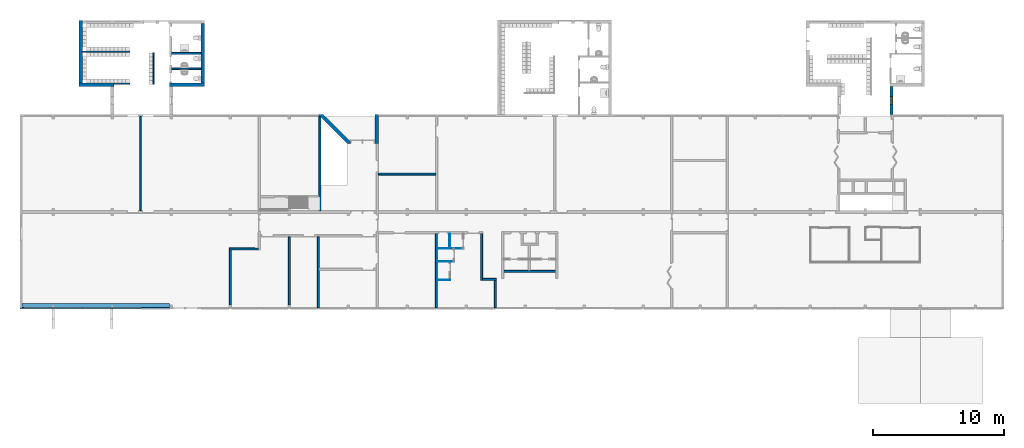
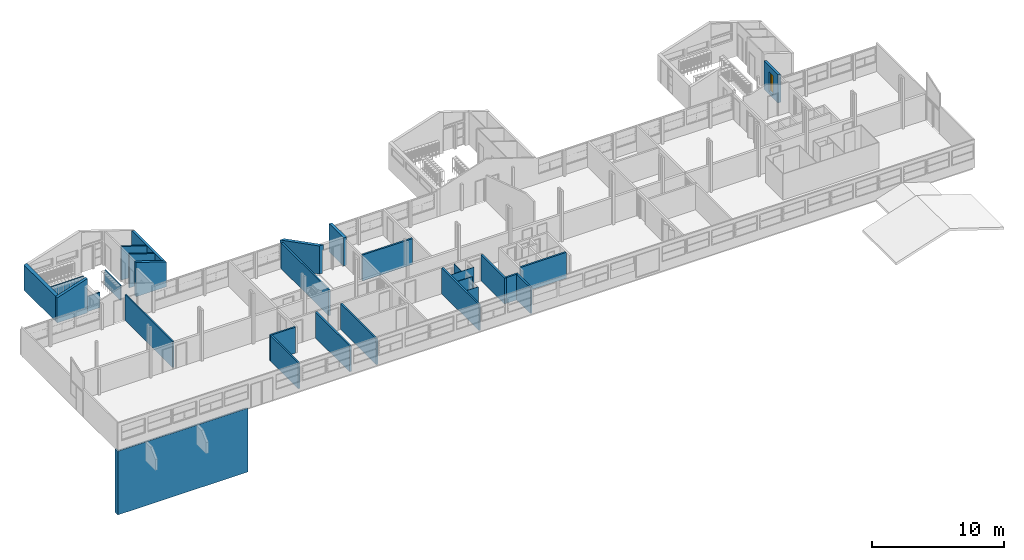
# One storey, part 6 of 48: 29 walls, 1 window, 1 opening.
"""IFC2X3 building model written with IfcOpenShell, lengths in millimetres."""

from ifc_helpers import new_model, entity, si_unit, converted_unit, derived_unit, money_unit, direction, frame, origin_with_axes, place, context, subcontext, project, spatial, open_shell, faceted_brep, surface_model, source, transform, mapped, material, type_object, element, fill, save


model = new_model("IFC2X3")

# Units and contexts
model_context = context("Model", 3, precision=0.01, world=origin_with_axes(), true_north=direction((0.0, 1.0)))
body_context = subcontext(model_context, "Body", "Model", "MODEL_VIEW")
ifc_project = project(units=[si_unit("LENGTHUNIT", "METRE", prefix="MILLI"), si_unit("AREAUNIT", "SQUARE_METRE"), si_unit("VOLUMEUNIT", "CUBIC_METRE"), converted_unit("PLANEANGLEUNIT", "DEGREE", entity("IfcPlaneAngleMeasure", 0.0174532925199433), si_unit("PLANEANGLEUNIT", "RADIAN"), dimensions=[0, 0, 0, 0, 0, 0, 0]), money_unit("USD"), converted_unit("TIMEUNIT", "Year", entity("IfcTimeMeasure", 31557600.0), si_unit("TIMEUNIT", "SECOND"), dimensions=[0, 0, 1, 0, 0, 0, 0]), si_unit("MASSUNIT", "GRAM", prefix="KILO"), si_unit("THERMODYNAMICTEMPERATUREUNIT", "DEGREE_CELSIUS"), si_unit("LUMINOUSINTENSITYUNIT", "LUMEN"), si_unit("ENERGYUNIT", "JOULE", prefix="MEGA"), derived_unit("THERMALCONDUCTANCEUNIT", [(si_unit("POWERUNIT", "WATT"), 1), (si_unit("LENGTHUNIT", "METRE"), -1), (si_unit("THERMODYNAMICTEMPERATUREUNIT", "KELVIN"), -1)]), derived_unit("SPECIFICHEATCAPACITYUNIT", [(si_unit("ENERGYUNIT", "JOULE"), 1), (si_unit("MASSUNIT", "GRAM", prefix="KILO"), -1), (si_unit("THERMODYNAMICTEMPERATUREUNIT", "KELVIN"), -1)]), derived_unit("MASSDENSITYUNIT", [(si_unit("MASSUNIT", "GRAM", prefix="KILO"), 1), (si_unit("VOLUMEUNIT", "CUBIC_METRE"), -1)])], contexts=[model_context])

# Site, building, storey
site_placement = place(None, origin_with_axes())
site = spatial("IfcSite", under=ifc_project, at=site_placement, Name="Site", CompositionType="ELEMENT")
building_placement = place(site_placement, origin_with_axes())
building = spatial("IfcBuilding", under=site, at=building_placement, Name="Building", CompositionType="ELEMENT")
storey_placement = place(building_placement, frame((0.0, 0.0, 3300.0), z_axis=(0.0, 0.0, 1.0), x_axis=(1.0, 0.0, 0.0)))
storey = spatial("IfcBuildingStorey", under=building, at=storey_placement, Name="1 ETG", CompositionType="ELEMENT", Elevation=3300.0)

# Walls
ifc_material_1 = material(Name="GENERIC - STRUCTURAL")
wall_type_1 = type_object("IfcWallType", Name="GENERIC - STRUCTURAL 400", PredefinedType="NOTDEFINED")
wall_1_placement = place(storey_placement, frame((-2520.260572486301, 7499.570929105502, -5900.0), z_axis=(0.0, 0.0, 1.0), x_axis=(1.0, 0.0, 0.0)))
element("IfcWall", 1, at=wall_1_placement, inside=storey, type_object=wall_type_1, material=ifc_material_1, Name="SW - 001", context=body_context, shape_type="Brep", body=[
    faceted_brep([(0.0, 0.0, 5900.0), (119.9999999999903, 0.0, 5900.0), (119.9999999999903, 0.0, 5700.0), (11390.2605724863, 0.0, 5700.0), (11390.2605724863, 0.0, 0.0), (0.0, 0.0, 0.0), (11390.2605724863, -299.6959527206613, 5900.0), (119.9999999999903, -299.6959527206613, 5900.0), (0.0, -399.9999999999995, 5900.0), (11390.2605724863, -399.9999999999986, 5900.0), (119.9999999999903, -299.6959527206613, 5700.0), (11390.2605724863, -299.6959527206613, 5700.0), (11390.2605724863, -399.9999999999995, 0.0), (0.0, -400.0000000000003, 0.0)], [[[0, 1, 2, 3, 4, 5]], [[6, 7, 1, 0, 8, 9]], [[10, 2, 1, 7]], [[10, 11, 3, 2]], [[3, 11, 6, 9, 12, 4]], [[13, 5, 4, 12]], [[8, 0, 5, 13]], [[10, 7, 6, 11]], [[8, 13, 12, 9]]]),
])
wall_type_2 = type_object("IfcWallType", Name="GENERIC - STRUCTURAL 260", PredefinedType="NOTDEFINED")
wall_2_placement = place(storey_placement, frame((24540.26965483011, 21799.95531338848, 0.0), z_axis=(0.0, 0.0, 1.0), x_axis=(-1.669870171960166e-06, -0.9999999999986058, 0.0)))
element("IfcWall", 2, at=wall_2_placement, inside=storey, type_object=wall_type_2, material=ifc_material_1, Name="SW - 001", context=body_context, shape_type="Brep", body=[
    faceted_brep([(0.0, 260.0000000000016, 865.018749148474), (0.0, 260.0000000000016, 2265.018749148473), (-119.9999999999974, 260.0000000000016, 2265.018749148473), (-119.9999999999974, 260.0000000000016, 2600.0), (2061.320278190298, 259.999999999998, 2600.0), (2061.320278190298, 259.999999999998, 0.0), (-119.9999999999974, 260.0000000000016, 0.0), (-119.9999999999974, 260.0000000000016, 865.018749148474), (-0.1244560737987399, 259.7303451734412, 865.018749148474), (-0.1244560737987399, 259.7303451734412, 2265.018749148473), (-119.9999999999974, 259.7303451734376, 2265.018749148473), (-119.9999999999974, 259.7303451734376, 865.018749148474), (-119.9999999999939, 0.0, 0.0), (-119.9999999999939, 0.0, 2600.0), (2061.320712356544, 0.0, 2600.0), (2061.320712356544, 0.0, 0.0)], [[[0, 1, 2, 3, 4, 5, 6, 7]], [[1, 0, 8, 9]], [[10, 2, 1, 9]], [[11, 7, 6, 12, 13, 3, 2, 10]], [[13, 14, 4, 3]], [[14, 15, 5, 4]], [[6, 5, 15, 12]], [[0, 7, 11, 8]], [[11, 10, 9, 8]], [[12, 15, 14, 13]]]),
])
wall_3_placement = place(storey_placement, frame((20724.52177348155, 21799.96168519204, 0.0), z_axis=(0.0, 0.0, 1.0), x_axis=(0.7071067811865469, -0.7071067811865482, 0.0)))
element("IfcWall", 3, at=wall_3_placement, inside=storey, type_object=wall_type_2, material=ifc_material_1, Name="SW - 001", context=body_context, shape_type="Brep", body=[
    faceted_brep([(2849.001192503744, -66.1555263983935, 0.0), (2849.001192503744, -66.1555263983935, 2100.0), (2915.156718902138, 0.0, 2100.0), (2915.156718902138, 0.0, 2600.0), (2655.156718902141, -259.999999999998, 2600.0), (2655.156718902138, -260.0000000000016, 0.0), (2782.845666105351, 0.0, 0.0), (2782.845666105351, 0.0, 2100.0), (-169.7059108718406, 0.0, 0.0), (-169.7059108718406, 0.0, 2600.0), (-429.7067792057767, -259.999999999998, 2600.0), (-429.7067792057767, -259.999999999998, 0.0)], [[[0, 1, 2, 3, 4, 5]], [[6, 7, 1, 0]], [[7, 2, 1]], [[7, 6, 8, 9, 3, 2]], [[10, 4, 3, 9]], [[11, 5, 4, 10]], [[6, 0, 5, 11, 8]], [[8, 11, 10, 9]]]),
])
ifc_material_2 = material(Name="GENERIC - INTERNAL FILLER")
wall_type_3 = type_object("IfcWallType", Name="GENERIC - INTERNAL FILLER 150", PredefinedType="NOTDEFINED")
wall_4_placement = place(storey_placement, frame((24800.2662126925, 17457.15501758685, 0.0), z_axis=(0.0, 0.0, 1.0), x_axis=(1.0, 0.0, 0.0)))
element("IfcWall", 4, at=wall_4_placement, inside=storey, type_object=wall_type_3, material=ifc_material_2, Name="SW - 001", context=body_context, shape_type="Brep", body=[
    faceted_brep([(4374.286172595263, -149.9999999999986, 2400.0), (4374.286172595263, 0.0, 2400.0), (0.0, 0.0, 2400.0), (0.0, -149.9999999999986, 2400.0), (4374.286172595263, -149.9999999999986, 0.0), (4374.286172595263, 0.0, 0.0), (0.0, 0.0, 0.0), (0.0, -149.9999999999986, 0.0)], [[[0, 1, 2, 3]], [[1, 0, 4, 5]], [[1, 5, 6, 2]], [[7, 3, 2, 6]], [[4, 0, 3, 7]], [[5, 4, 7, 6]]]),
])
wall_5_placement = place(storey_placement, frame((20418.15333142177, 21799.96219678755, 0.0), z_axis=(0.0, 0.0, 1.0), x_axis=(0.0, -1.0, 0.0)))
element("IfcWall", 5, at=wall_5_placement, inside=storey, type_object=wall_type_3, material=ifc_material_2, Name="SW - 001", context=body_context, shape_type="Brep", body=[
    faceted_brep([(-0.0002504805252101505, -149.9999999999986, 2400.0), (7199.962196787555, -149.9999999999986, 2400.0), (7199.962196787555, 0.0, 2400.0), (0.0, 0.0, 2400.0), (7200.087220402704, -150.0000000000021, 2300.000000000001), (7199.962196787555, -150.0000000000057, 2300.000000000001), (-0.0002504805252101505, -149.9999999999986, 0.0), (7200.087220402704, -150.0000000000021, 0.0), (7199.962196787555, 0.0, 2300.000000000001), (7200.087220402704, 0.0, 2300.000000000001), (7200.087220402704, 0.0, 0.0), (0.0, 0.0, 0.0)], [[[0, 1, 2, 3]], [[4, 5, 1, 0, 6, 7]], [[5, 8, 2, 1]], [[2, 8, 9, 10, 11, 3]], [[11, 6, 0, 3]], [[4, 9, 8, 5]], [[11, 10, 7, 6]], [[10, 9, 4, 7]]]),
])
wall_6_placement = place(storey_placement, frame((15800.00000000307, 11599.96990850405, 0.0), z_axis=(0.0, 0.0, 1.0), x_axis=(-0.9999999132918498, 0.0004164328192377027, 0.0)))
element("IfcWall", 6, at=wall_6_placement, inside=storey, type_object=wall_type_3, material=ifc_material_2, Name="SW - 001", context=body_context, shape_type="Brep", body=[
    faceted_brep([(2360.062669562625, -150.0000000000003, 2400.0), (2360.000204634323, 0.0, 2400.0), (150.000013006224, 0.0, 2400.0), (150.0624779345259, -150.0000000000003, 2400.0), (2360.062669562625, -150.0000000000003, 0.0), (2360.000204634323, 0.0, 0.0), (150.000013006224, 0.0, 0.0), (150.0624779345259, -150.0000000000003, 0.0)], [[[0, 1, 2, 3]], [[1, 0, 4, 5]], [[1, 5, 6, 2]], [[7, 3, 2, 6]], [[4, 0, 3, 7]], [[5, 4, 7, 6]]]),
])
wall_7_placement = place(storey_placement, frame((13590.0, 11600.89022511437, 0.0), z_axis=(0.0, 0.0, 1.0), x_axis=(0.0, -1.0, 0.0)))
element("IfcWall", 7, at=wall_7_placement, inside=storey, type_object=wall_type_3, material=ifc_material_2, Name="SW - 001", context=body_context, shape_type="Brep", body=[
    faceted_brep([(0.0, 0.0, 2400.0), (-0.06246492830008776, -150.0000000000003, 2400.0), (4201.11962114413, -150.0000000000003, 2400.0), (4201.11962114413, 0.0, 2400.0), (0.0, 0.0, 0.0), (-0.06246492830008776, -150.0000000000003, 0.0), (4201.11962114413, -150.0000000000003, 0.0), (4201.11962114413, 0.0, 0.0)], [[[0, 1, 2, 3]], [[4, 5, 1, 0]], [[1, 5, 6, 2]], [[7, 3, 2, 6]], [[4, 0, 3, 7]], [[5, 4, 7, 6]]]),
])
wall_8_placement = place(storey_placement, frame((18090.00000000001, 7399.778563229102, 0.0), z_axis=(0.0, 0.0, 1.0), x_axis=(0.0, 1.0, 0.0)))
element("IfcWall", 8, at=wall_8_placement, inside=storey, type_object=wall_type_3, material=ifc_material_2, Name="SW - 001", context=body_context, shape_type="Brep", body=[
    faceted_brep([(0.0, 149.9999999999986, 0.0), (5199.999999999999, 149.9999999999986, 0.0), (5199.999999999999, 0.0, 0.0), (0.0, 0.0, 0.0), (0.0, 149.9999999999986, 2400.0), (5199.999999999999, 149.9999999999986, 2400.0), (5199.999999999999, 0.0, 2400.0), (0.0, 0.0, 2400.0)], [[[0, 1, 2, 3]], [[4, 5, 1, 0]], [[6, 2, 1, 5]], [[3, 2, 6, 7]], [[7, 4, 0, 3]], [[7, 6, 5, 4]]]),
])
wall_9_placement = place(storey_placement, frame((20299.99980266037, 7199.782631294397, 0.0), z_axis=(0.0, 0.0, 1.0), x_axis=(2.468588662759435e-05, 0.9999999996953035, 0.0)))
element("IfcWall", 9, at=wall_9_placement, inside=storey, type_object=wall_type_3, material=ifc_material_2, Name="SW - 001", context=body_context, shape_type="Brep", body=[
    faceted_brep([(5399.992230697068, 150.0000000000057, 0.0), (5399.995933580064, 0.0, 0.0), (0.0, 0.0, 0.0), (-0.003968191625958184, 150.0000000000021, 0.0), (5399.992230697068, 150.0000000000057, 2400.0), (5399.995933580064, 0.0, 2400.0), (0.0, 0.0, 2400.0), (-0.003968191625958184, 150.0000000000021, 2400.0)], [[[0, 1, 2, 3]], [[1, 0, 4, 5]], [[1, 5, 6, 2]], [[7, 3, 2, 6]], [[4, 0, 3, 7]], [[5, 4, 7, 6]]]),
])
wall_10_placement = place(storey_placement, frame((32747.16054564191, 9435.593707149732, 0.0), z_axis=(0.0, 0.0, 1.0), x_axis=(0.9999999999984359, 1.768724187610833e-06, 0.0)))
element("IfcWall", 10, at=wall_10_placement, inside=storey, type_object=wall_type_3, material=ifc_material_2, Name="SW - 001", context=body_context, shape_type="Brep", body=[
    faceted_brep([(1052.83527764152, -150.0018621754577, 2400.0), (1052.83527764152, -0.001862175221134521, 2400.0), (0.0, 0.0, 2400.0), (-0.0002653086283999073, -149.9999999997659, 2400.0), (1052.83527764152, -150.0018621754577, 0.0), (1052.83527764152, -0.001862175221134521, 0.0), (0.0, 0.0, 0.0), (-0.0002653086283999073, -149.9999999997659, 0.0)], [[[0, 1, 2, 3]], [[1, 0, 4, 5]], [[1, 5, 6, 2]], [[7, 3, 2, 6]], [[4, 0, 3, 7]], [[5, 4, 7, 6]]]),
])
wall_11_placement = place(storey_placement, frame((29299.99985511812, 7199.798549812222, 0.0), z_axis=(0.0, 0.0, 1.0), x_axis=(0.0, 1.0, 0.0)))
element("IfcWall", 11, at=wall_11_placement, inside=storey, type_object=wall_type_3, material=ifc_material_2, Name="SW - 001", context=body_context, shape_type="Brep", body=[
    faceted_brep([(5650.07642657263, 149.9999999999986, 0.0), (5650.07642657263, 0.0, 0.0), (0.0, 0.0, 0.0), (-0.0002653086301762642, 149.9999999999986, 0.0), (5650.07642657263, 149.9999999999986, 2400.0), (5650.07642657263, 0.0, 2400.0), (0.0, 0.0, 2400.0), (-0.0002653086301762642, 149.9999999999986, 2400.0)], [[[0, 1, 2, 3]], [[1, 0, 4, 5]], [[1, 5, 6, 2]], [[7, 3, 2, 6]], [[4, 0, 3, 7]], [[5, 4, 7, 6]]]),
])
wall_12_placement = place(storey_placement, frame((33799.99582328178, 9435.595569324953, 0.0), z_axis=(0.0, 0.0, 1.0), x_axis=(1.76872418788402e-06, -0.9999999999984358, 0.0)))
element("IfcWall", 12, at=wall_12_placement, inside=storey, type_object=wall_type_3, material=ifc_material_2, Name="SW - 001", context=body_context, shape_type="Brep", body=[
    faceted_brep([(2235.789060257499, -149.9999999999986, 2400.0), (2235.789060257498, 0.0, 2400.0), (150.0000000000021, 0.0, 2400.0), (150.0000000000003, -149.9999999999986, 2400.0), (2235.789060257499, -149.9999999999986, 0.0), (2235.789060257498, 0.0, 0.0), (150.0000000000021, 0.0, 0.0), (150.0000000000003, -149.9999999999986, 0.0)], [[[0, 1, 2, 3]], [[1, 0, 4, 5]], [[1, 5, 6, 2]], [[7, 3, 2, 6]], [[4, 0, 3, 7]], [[5, 4, 7, 6]]]),
])
wall_13_placement = place(storey_placement, frame((32747.16054564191, 12999.87497638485, 0.0), z_axis=(0.0, 0.0, 1.0), x_axis=(0.0, -1.0, 0.0)))
element("IfcWall", 13, at=wall_13_placement, inside=storey, type_object=wall_type_3, material=ifc_material_2, Name="SW - 001", context=body_context, shape_type="Brep", body=[
    faceted_brep([(3714.281534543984, -149.9999999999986, 2400.0), (3714.281269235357, 0.0, 2400.0), (150.0000000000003, 0.0, 2400.0), (150.0000000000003, -149.9999999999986, 2400.0), (3714.281534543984, -149.9999999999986, 0.0), (3714.281269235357, 0.0, 0.0), (150.0000000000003, 0.0, 0.0), (150.0000000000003, -149.9999999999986, 0.0)], [[[0, 1, 2, 3]], [[1, 0, 4, 5]], [[1, 5, 6, 2]], [[7, 3, 2, 6]], [[4, 0, 3, 7]], [[5, 4, 7, 6]]]),
])
wall_14_placement = place(storey_placement, frame((38499.99999999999, 9899.87497638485, 0.0), z_axis=(0.0, 0.0, 1.0), x_axis=(-1.0, 0.0, 0.0)))
element("IfcWall", 14, at=wall_14_placement, inside=storey, type_object=wall_type_3, material=ifc_material_2, Name="SW - 001", context=body_context, shape_type="Brep", body=[
    faceted_brep([(4149.999999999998, -150.0000000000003, 2400.0), (4149.999999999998, 0.0, 2400.0), (149.9999999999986, 0.0, 2400.0), (149.9999999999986, -150.0000000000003, 2400.0), (4149.999999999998, -150.0000000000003, 0.0), (4149.999999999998, 0.0, 0.0), (149.9999999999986, 0.0, 0.0), (149.9999999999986, -150.0000000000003, 0.0)], [[[0, 1, 2, 3]], [[1, 0, 4, 5]], [[1, 5, 6, 2]], [[7, 3, 2, 6]], [[4, 0, 3, 7]], [[5, 4, 7, 6]]]),
])
wall_15_placement = place(storey_placement, frame((8950.002205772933, 26524.85317268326, 0.0), z_axis=(0.0, 0.0, 1.0), x_axis=(1.0, 1.030904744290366e-08, 0.0)))
element("IfcWall", 15, at=wall_15_placement, inside=storey, type_object=wall_type_3, material=ifc_material_2, Name="SW - 001", context=body_context, shape_type="Brep", body=[
    faceted_brep([(75.00000100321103, 149.9999992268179, 0.0), (75.00000100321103, 149.9999992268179, 3131.068206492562), (2324.997815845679, 149.9999760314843, 2399.998945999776), (2324.997815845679, 149.9999760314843, 0.0), (74.99999945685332, -7.731806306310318e-07, 0.0), (74.99999945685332, -7.731806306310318e-07, 3131.068206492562), (2324.997835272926, -2.39685142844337e-05, 2399.998939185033), (2324.997835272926, -2.39685142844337e-05, 0.0)], [[[0, 1, 2, 3]], [[4, 5, 1, 0]], [[5, 6, 2, 1]], [[3, 2, 6, 7]], [[0, 3, 7, 4]], [[7, 6, 5, 4]]]),
])
wall_16_placement = place(storey_placement, frame((8950.00253312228, 25424.73254011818, 0.0), z_axis=(0.0, 0.0, 1.0), x_axis=(0.9999999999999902, 1.398240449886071e-07, 0.0)))
element("IfcWall", 16, at=wall_16_placement, inside=storey, type_object=wall_type_3, material=ifc_material_2, Name="SW - 001", context=body_context, shape_type="Brep", body=[
    faceted_brep([(74.99968259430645, 74.99998951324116, 0.0), (74.99968259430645, 74.99998951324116, 3131.068206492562), (2324.997661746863, 74.99967490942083, 2399.998892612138), (2324.997661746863, 74.99967490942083, 0.0), (74.9996616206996, -75.00001048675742, 0.0), (74.9996616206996, -75.00001048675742, 3131.068206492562), (2324.997661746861, -75.0003250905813, 2399.998885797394), (2324.997661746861, -75.0003250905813, 0.0)], [[[0, 1, 2, 3]], [[4, 5, 1, 0]], [[5, 6, 2, 1]], [[3, 2, 6, 7]], [[0, 3, 7, 4]], [[7, 6, 5, 4]]]),
])
wall_type_4 = type_object("IfcWallType", Name="GENERIC - INTERNAL FILLER 120", PredefinedType="NOTDEFINED")
wall_17_placement = place(storey_placement, frame((6664.999999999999, 21799.87497638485, 0.0), z_axis=(0.0, 0.0, 1.0), x_axis=(0.0, -1.0, 0.0)))
element("IfcWall", 17, at=wall_17_placement, inside=storey, type_object=wall_type_4, material=ifc_material_2, Name="SW - 001", context=body_context, shape_type="Brep", body=[
    faceted_brep([(0.0, -59.99999999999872, 2400.0), (7199.874976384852, -60.00000000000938, 2400.0), (7199.874976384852, 59.99999999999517, 2400.0), (0.0, 60.00000000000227, 2400.0), (7199.999999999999, -60.00000000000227, 2300.000000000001), (7199.874976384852, -60.00000000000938, 2300.000000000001), (0.0, -59.99999999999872, 0.0), (7199.999999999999, -60.00000000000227, 0.0), (7199.874976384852, 59.99999999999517, 2300.000000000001), (7199.999999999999, 59.99999999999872, 2300.000000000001), (7199.999999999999, 59.99999999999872, 0.0), (0.0, 59.99999999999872, 0.0)], [[[0, 1, 2, 3]], [[4, 5, 1, 0, 6, 7]], [[5, 8, 2, 1]], [[2, 8, 9, 10, 11, 3]], [[11, 6, 0, 3]], [[4, 9, 8, 5]], [[11, 10, 7, 6]], [[10, 9, 4, 7]]]),
])
wall_type_5 = type_object("IfcWallType", Name="GENERIC - INTERNAL FILLER 250", PredefinedType="NOTDEFINED")
wall_18_placement = place(storey_placement, frame((4500.0, 24199.87497637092, 0.0), z_axis=(0.0, 0.0, 1.0), x_axis=(-1.0, 0.0, 0.0)))
element("IfcWall", 18, at=wall_18_placement, inside=storey, type_object=wall_type_5, material=ifc_material_2, Name="SW - 001", context=body_context, shape_type="Brep", body=[
    faceted_brep([(2525.000000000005, -125.0, 0.0), (2525.0, -125.0, 2318.768861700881), (-124.9999999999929, -125.0, 3179.806740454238), (-124.9999999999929, -125.0, 0.0), (2525.000000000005, 125.0, 0.0), (2525.0, 125.0, 2318.768861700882), (-124.9999999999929, 125.0, 3179.806740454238), (-124.9999999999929, 125.0, 0.0)], [[[0, 1, 2, 3]], [[4, 5, 1, 0]], [[5, 6, 2, 1]], [[3, 2, 6, 7]], [[3, 7, 4, 0]], [[7, 6, 5, 4]]]),
])
wall_19_placement = place(storey_placement, frame((11400.00036615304, 24199.73665493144, 0.0), z_axis=(0.0, 0.0, 1.0), x_axis=(-1.0, 0.0, 0.0)))
element("IfcWall", 19, at=wall_19_placement, inside=storey, type_object=wall_type_5, material=ifc_material_2, Name="SW - 001", context=body_context, shape_type="Brep", body=[
    faceted_brep([(2524.998390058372, 124.8749764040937, 2958.869011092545), (2274.99958595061, 124.8749763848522, 2877.639475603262), (2274.999585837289, 124.8749759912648, 2577.639475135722), (2274.99958595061, 124.8749764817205, 0.0), (-124.999924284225, 124.8749763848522, 0.0), (-124.999924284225, 124.8749766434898, 2318.76886143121), (2524.998390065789, 124.8749771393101, 3179.806278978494), (2524.998390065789, 124.8749760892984, 2658.869010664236), (2274.999585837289, 125.0, 2577.639475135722), (2274.99958595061, 125.0, 0.0), (-124.9999825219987, -125.0, 0.0), (2524.998390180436, 125.0, 0.0), (2524.998160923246, -125.0, 0.0), (-124.9999309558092, -125.0, 2318.768859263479), (2524.998160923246, -125.0, 3179.806204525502), (2524.998390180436, 125.0, 2658.869010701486)], [[[0, 1, 2, 3, 4, 5, 6]], [[7, 2, 1, 0]], [[3, 2, 8, 9]], [[10, 4, 3, 9, 11, 12]], [[10, 13, 5, 4]], [[6, 5, 13, 14]], [[15, 7, 0, 6, 14, 12, 11]], [[15, 8, 2, 7]], [[9, 8, 15, 11]], [[12, 14, 13, 10]]]),
])
wall_20_placement = place(storey_placement, frame((2099.999999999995, 24199.87497637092, 0.0), z_axis=(0.0, 0.0, 1.0), x_axis=(0.0, 1.0, 0.0)))
element("IfcWall", 20, at=wall_20_placement, inside=storey, type_object=wall_type_5, material=ifc_material_2, Name="SW - 001", context=body_context, shape_type="Brep", body=[
    faceted_brep([(4924.999999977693, 125.0, 0.0), (4924.999999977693, 124.9999999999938, 2318.768861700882), (4925.000000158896, -125.0, 2399.998850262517), (4925.000000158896, -125.0, 0.0), (125.0, 125.0, 0.0), (125.0, 124.9999999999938, 2318.768861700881), (125.0, -125.0, 2399.998850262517), (125.0, -125.0, 0.0)], [[[0, 1, 2, 3]], [[4, 5, 1, 0]], [[5, 6, 2, 1]], [[3, 2, 6, 7]], [[7, 4, 0, 3]], [[7, 6, 5, 4]]]),
])

# Wall, opening, window
wall_21_placement = place(storey_placement, frame((63949.99987202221, 24194.70079586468, 0.0), z_axis=(0.0, 0.0, 1.0), x_axis=(5.138062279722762e-08, -0.9999999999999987, 0.0)))
wall_21 = element("IfcWall", 21, at=wall_21_placement, inside=storey, type_object=wall_type_5, material=ifc_material_2, Name="SW - 001", context=body_context, shape_type="Brep", body=[
    faceted_brep([(2274.825378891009, -125.0001168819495, 2639.367541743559), (124.999993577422, -125.0000064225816, 2639.367541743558), (124.999993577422, -125.0000064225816, 0.0), (2274.825378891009, -125.0001168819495, 0.0), (1494.721576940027, -125.0000767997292, 265.0187491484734), (894.7215769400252, -125.0000459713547, 265.0187491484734), (894.7215769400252, -125.0000459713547, 2065.018749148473), (1494.721576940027, -125.0000767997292, 2065.018749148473), (2274.825391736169, 124.9999447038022, 2558.144360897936), (125.0000064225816, 125.00005516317, 2558.144360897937), (125.000006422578, 124.9999935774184, 0.0), (2274.825391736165, 124.9998831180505, 0.0), (1494.721589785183, 124.9999232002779, 265.0187491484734), (894.7215897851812, 124.9999540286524, 265.0187491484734), (894.7215897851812, 124.9999540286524, 2065.018749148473), (1494.721589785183, 124.9999232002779, 2065.018749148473)], [[[0, 1, 2, 3], [4, 5, 6, 7]], [[8, 9, 1, 0]], [[1, 9, 10, 2]], [[11, 3, 2, 10]], [[8, 0, 3, 11]], [[12, 13, 5, 4]], [[13, 14, 6, 5]], [[14, 15, 7, 6]], [[15, 12, 4, 7]], [[9, 8, 11, 10], [12, 15, 14, 13]]]),
])
opening_placement = place(wall_21_placement, frame((1194.72157694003, 0.0, 265.0187491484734), z_axis=(0.0, 0.0, 1.0), x_axis=(1.0, 0.0, 0.0)))
opening = element("IfcOpeningElement", 22, at=opening_placement, cuts=wall_21, Name="WD - 001", context=body_context, shape_type="Brep", body=[
    faceted_brep([(-300.0000000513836, -126.0000459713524, 1800.0), (-300.0000000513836, -126.0000459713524, 0.0), (299.9999999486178, -126.0000767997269, 0.0), (299.9999999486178, -126.0000767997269, 1800.0), (-299.9999871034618, 126.0000770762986, 1800.0), (-299.9999871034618, 126.0000770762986, 0.0), (300.0000128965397, 126.000046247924, 0.0), (300.0000128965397, 126.000046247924, 1800.0)], [[[0, 1, 2, 3]], [[4, 5, 1, 0]], [[5, 6, 2, 1]], [[6, 7, 3, 2]], [[7, 4, 0, 3]], [[6, 5, 4, 7]]]),
])
window_style = type_object("IfcWindowStyle", Name="Vindu", ConstructionType="NOTDEFINED", OperationType="SINGLE_PANEL", ParameterTakesPrecedence=False, Sizeable=False)
shared_shape = source(origin_with_axes(), body_context, "Body", "SurfaceModel", [
    faceted_brep([(234.0, -92.00000000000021, 1734.0), (300.0, -92.00000000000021, 1734.0), (300.0, 0.0, 1734.0), (234.0, 0.0, 1734.0), (234.0, -92.0, 66.0), (300.0, -92.0, 66.0), (300.0, 0.0, 66.0), (234.0, 0.0, 66.0)], [[[0, 1, 2, 3]], [[0, 4, 5, 1]], [[1, 5, 6, 2]], [[3, 2, 6, 7]], [[4, 0, 3, 7]], [[5, 4, 7, 6]]]),
    faceted_brep([(-234.0, -92.0, 66.0), (-300.0, -92.0, 66.0), (-300.0, 0.0, 66.0), (-234.0, 0.0, 66.0), (-234.0, -92.00000000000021, 1734.0), (-300.0, -92.00000000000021, 1734.0), (-300.0, 0.0, 1734.0), (-234.0, 0.0, 1734.0)], [[[0, 1, 2, 3]], [[0, 4, 5, 1]], [[1, 5, 6, 2]], [[3, 2, 6, 7]], [[4, 0, 3, 7]], [[5, 4, 7, 6]]]),
    faceted_brep([(234.0, -92.0, 66.0), (300.0, -92.0, 66.0), (300.0, 0.0, 66.0), (234.0, 0.0, 66.0), (-234.0, -92.0, 66.0), (-300.0, -92.0, 66.0), (-300.0, -92.0, 0.0), (300.0, -92.0, 0.0), (300.0, 0.0, 0.0), (-300.0, 0.0, 0.0), (-300.0, 0.0, 66.0), (-234.0, 0.0, 66.0)], [[[0, 1, 2, 3]], [[0, 4, 5, 6, 7, 1]], [[1, 7, 8, 2]], [[3, 2, 8, 9, 10, 11]], [[4, 0, 3, 11]], [[5, 4, 11, 10]], [[6, 5, 10, 9]], [[7, 6, 9, 8]]]),
    faceted_brep([(-234.0, -92.00000000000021, 1734.0), (-300.0, -92.00000000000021, 1734.0), (-300.0, 0.0, 1734.0), (-234.0, 0.0, 1734.0), (234.0, -92.00000000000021, 1734.0), (300.0, -92.00000000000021, 1734.0), (300.0, -92.00000000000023, 1800.0), (-300.0, -92.00000000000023, 1800.0), (-300.0, 0.0, 1800.0), (300.0, 0.0, 1800.0), (300.0, 0.0, 1734.0), (234.0, 0.0, 1734.0)], [[[0, 1, 2, 3]], [[0, 4, 5, 6, 7, 1]], [[1, 7, 8, 2]], [[3, 2, 8, 9, 10, 11]], [[4, 0, 3, 11]], [[5, 4, 11, 10]], [[6, 5, 10, 9]], [[7, 6, 9, 8]]]),
    surface_model("IfcShellBasedSurfaceModel", [(234.0, -56.0, 66.0), (234.0, -56.0000000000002, 1734.0), (-234.0, -56.0000000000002, 1734.0), (-234.0, -56.0, 66.0)], [open_shell([[[0, 1, 2, 3]]])]),
    surface_model("IfcShellBasedSurfaceModel", [(234.0, -36.00000000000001, 66.0), (-234.0, -36.00000000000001, 66.0), (-234.0, -36.00000000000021, 1734.0), (234.0, -36.00000000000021, 1734.0)], [open_shell([[[0, 1, 2, 3]]])]),
])
window_placement = place(opening_placement, frame((-300.0000000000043, 0.0, 0.0), z_axis=(0.0, 0.0, 1.0), x_axis=(1.0, 0.0, 0.0)))
window = element("IfcWindow", 23, at=window_placement, inside=storey, type_object=window_style, Name="WD - 001", ObjectType="WINDOW", OverallHeight=1800.0, OverallWidth=600.0, context=body_context, shape_type="MappedRepresentation", body=[
    mapped(shared_shape, transform((300.0000128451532, 124.9999386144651, 0.0))),
])
fill(opening, window)

# Walls
wall_22_placement = place(storey_placement, frame((11399.99969497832, 28999.87498317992, 0.0), z_axis=(0.0, 0.0, 1.0), x_axis=(1.398240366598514e-07, -0.9999999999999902, 0.0)))
element("IfcWall", 24, at=wall_22_placement, inside=storey, type_object=wall_type_5, material=ifc_material_2, Name="SW - 001", context=body_context, shape_type="Brep", body=[
    faceted_brep([(124.9999826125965, -125.0000000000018, 0.0), (124.9999826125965, -125.0000000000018, 2399.999045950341), (125.0000173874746, 125.0005112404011, 2318.768883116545), (125.0000173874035, 124.9999953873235, 0.0), (4675.138310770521, -125.0000000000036, 0.0), (4675.138310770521, -125.0000000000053, 2399.998839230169), (4675.13834572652, 124.9999382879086, 2318.768862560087), (4675.138345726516, 124.9999114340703, 0.0)], [[[0, 1, 2, 3]], [[4, 5, 1, 0]], [[5, 6, 2, 1]], [[3, 2, 6, 7]], [[3, 7, 4, 0]], [[7, 6, 5, 4]]]),
])
wall_type_6 = type_object("IfcWallType", Name="GENERIC - INTERNAL FILLER 100", PredefinedType="NOTDEFINED")
wall_23_placement = place(storey_placement, frame((4625.005633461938, 24324.87497637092, 0.0), z_axis=(0.0, 0.0, 1.0), x_axis=(1.0, 0.0, 0.0)))
element("IfcWall", 25, at=wall_23_placement, inside=storey, type_object=wall_type_6, material=ifc_material_2, Name="SW - 001", context=body_context, shape_type="Brep", body=[
    faceted_brep([(0.0, 0.0, 0.0), (1199.999999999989, 0.0, 0.0), (1199.999999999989, -100.0000000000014, 0.0), (0.0, -100.0000000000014, 0.0), (0.0, 0.0, 1400.0), (1199.999999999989, 0.0, 1400.0), (1199.999999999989, -100.0000000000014, 1400.0), (0.0, -100.0000000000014, 1400.0)], [[[0, 1, 2, 3]], [[4, 5, 1, 0]], [[2, 1, 5, 6]], [[3, 2, 6, 7]], [[4, 0, 3, 7]], [[7, 6, 5, 4]]]),
])
wall_24_placement = place(storey_placement, frame((2099.999999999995, 26774.87497652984, 0.0), z_axis=(0.0, 0.0, 1.0), x_axis=(1.0, 0.0, 0.0)))
element("IfcWall", 26, at=wall_24_placement, inside=storey, type_object=wall_type_6, material=ifc_material_2, Name="SW - 001", context=body_context, shape_type="Brep", body=[
    faceted_brep([(125.0, 0.0, 0.0), (3725.008450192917, 0.0, 0.0), (3725.008450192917, -100.0000000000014, 0.0), (125.0, -100.0000000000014, 0.0), (125.0, 0.0, 1400.0), (3725.008450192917, 0.0, 1400.0), (3725.008450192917, -100.0000000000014, 1400.0), (125.0, -100.0000000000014, 1400.0)], [[[0, 1, 2, 3]], [[4, 5, 1, 0]], [[2, 1, 5, 6]], [[3, 2, 6, 7]], [[4, 0, 3, 7]], [[7, 6, 5, 4]]]),
])
wall_25_placement = place(storey_placement, frame((7699.999999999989, 26629.85253320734, 0.0), z_axis=(0.0, 0.0, 1.0), x_axis=(0.0, -1.0, 0.0)))
element("IfcWall", 27, at=wall_25_placement, inside=storey, type_object=wall_type_6, material=ifc_material_2, Name="SW - 001", context=body_context, shape_type="Brep", body=[
    faceted_brep([(0.0, 0.0, 0.0), (2404.977556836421, 0.0, 0.0), (2404.977556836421, -100.0000000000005, 0.0), (0.0, -99.99999999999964, 0.0), (0.0, 0.0, 1400.0), (2404.977556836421, 0.0, 1400.0), (2404.977556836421, -100.0000000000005, 1400.0), (0.0, -99.99999999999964, 1400.0)], [[[0, 1, 2, 3]], [[4, 5, 1, 0]], [[2, 1, 5, 6]], [[3, 2, 6, 7]], [[4, 0, 3, 7]], [[7, 6, 5, 4]]]),
])
wall_type_7 = type_object("IfcWallType", Name="GENERIC - INTERNAL FILLER 50", PredefinedType="NOTDEFINED")
wall_26_placement = place(storey_placement, frame((30274.99985511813, 11685.59344184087, 0.0), z_axis=(0.0, 0.0, 1.0), x_axis=(0.0, 1.0, 0.0)))
element("IfcWall", 28, at=wall_26_placement, inside=storey, type_object=wall_type_7, material=ifc_material_2, Name="SW - 001", context=body_context, shape_type="Brep", body=[
    faceted_brep([(1164.281534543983, 50.00000000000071, 0.0), (1164.281534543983, 0.0, 0.0), (50.00000000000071, 0.0, 0.0), (50.00000000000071, 50.00000000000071, 0.0), (1164.281534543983, 50.00000000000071, 2400.0), (1164.281534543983, 0.0, 2400.0), (50.00000000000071, 0.0, 2400.0), (50.00000000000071, 50.00000000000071, 2400.0)], [[[0, 1, 2, 3]], [[1, 0, 4, 5]], [[1, 5, 6, 2]], [[7, 3, 2, 6]], [[4, 0, 3, 7]], [[5, 4, 7, 6]]]),
])
wall_27_placement = place(storey_placement, frame((29299.99985511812, 9285.59344184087, 0.0), z_axis=(0.0, 0.0, 1.0), x_axis=(1.0, 0.0, 0.0)))
element("IfcWall", 29, at=wall_27_placement, inside=storey, type_object=wall_type_7, material=ifc_material_2, Name="SW - 001", context=body_context, shape_type="Brep", body=[
    faceted_brep([(1000.0, 50.00000000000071, 0.0), (1000.0, 0.0, 0.0), (0.0, 0.0, 0.0), (0.0, 50.00000000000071, 0.0), (1000.0, 50.00000000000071, 2400.0), (1000.0, 0.0, 2400.0), (0.0, 0.0, 2400.0), (0.0, 50.00000000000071, 2400.0)], [[[0, 1, 2, 3]], [[1, 0, 4, 5]], [[1, 5, 6, 2]], [[7, 3, 2, 6]], [[4, 0, 3, 7]], [[5, 4, 7, 6]]]),
])
wall_28_placement = place(storey_placement, frame((29299.99985511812, 10685.59344184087, 0.0), z_axis=(0.0, 0.0, 1.0), x_axis=(1.0, 0.0, 0.0)))
element("IfcWall", 30, at=wall_28_placement, inside=storey, type_object=wall_type_7, material=ifc_material_2, Name="SW - 001", context=body_context, shape_type="Brep", body=[
    faceted_brep([(1299.999999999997, 50.00000000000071, 0.0), (1299.999999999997, 0.0, 0.0), (0.0, 0.0, 0.0), (0.0, 50.00000000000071, 0.0), (1299.999999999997, 50.00000000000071, 2400.0), (1299.999999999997, 0.0, 2400.0), (0.0, 0.0, 2400.0), (0.0, 50.00000000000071, 2400.0)], [[[0, 1, 2, 3]], [[1, 0, 4, 5]], [[1, 5, 6, 2]], [[7, 3, 2, 6]], [[4, 0, 3, 7]], [[5, 4, 7, 6]]]),
])
wall_29_placement = place(storey_placement, frame((29299.99985511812, 11685.59344184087, 0.0), z_axis=(0.0, 0.0, 1.0), x_axis=(1.0, 0.0, 0.0)))
element("IfcWall", 31, at=wall_29_placement, inside=storey, type_object=wall_type_7, material=ifc_material_2, Name="SW - 001", context=body_context, shape_type="Brep", body=[
    faceted_brep([(2000.0, 50.00000000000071, 0.0), (2000.0, 0.0, 0.0), (0.0, 0.0, 0.0), (0.0, 50.00000000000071, 0.0), (2000.0, 50.00000000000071, 2400.0), (2000.0, 0.0, 2400.0), (0.0, 0.0, 2400.0), (0.0, 50.00000000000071, 2400.0)], [[[0, 1, 2, 3]], [[1, 0, 4, 5]], [[1, 5, 6, 2]], [[7, 3, 2, 6]], [[4, 0, 3, 7]], [[5, 4, 7, 6]]]),
])

save(model, "model.ifc")
